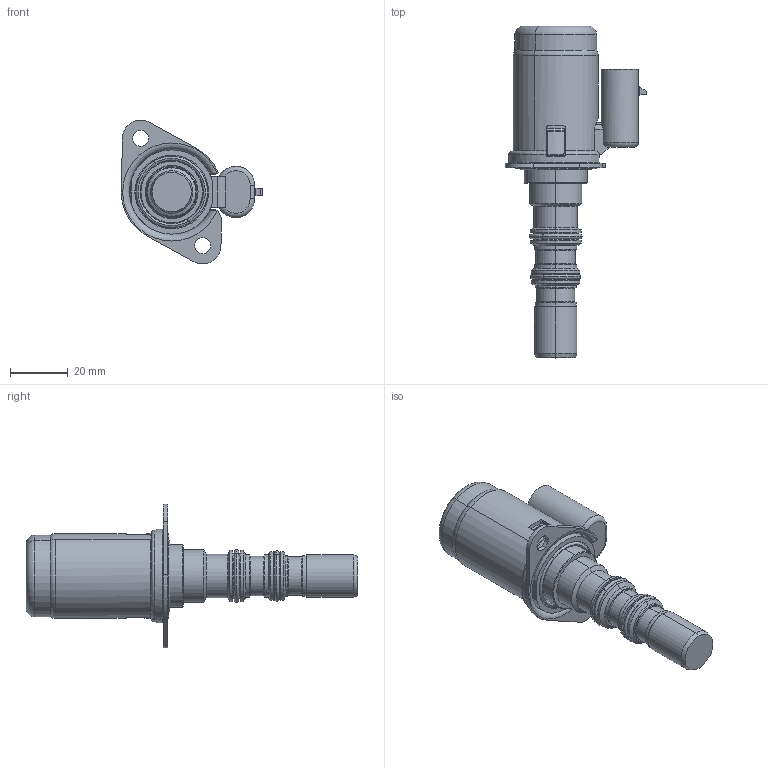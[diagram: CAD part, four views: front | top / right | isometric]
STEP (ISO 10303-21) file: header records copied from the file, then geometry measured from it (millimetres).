
FILE_DESCRIPTION((''),'2;1');
FILE_NAME('PRT0010','2009-03-20T',('jcs'),(''),'PRO/ENGINEER BY PARAMETRIC TECHNOLOGY CORPORATION, 2008010','PRO/ENGINEER BY PARAMETRIC TECHNOLOGY CORPORATION, 2008010','');
FILE_SCHEMA(('CONFIG_CONTROL_DESIGN'));
Length unit declared in the file: inch
Products named in the file (1): PRT0010
Bounding box: 49.14 x 115.24 x 49.94 mm (x, y, z)
Volume: 51251.2 mm3; surface area: 15135.8 mm2
Topology: 2 solids, 2 shells, 344 faces, 963 edges, 620 vertices
Faces by surface type: plane 121, cylinder 107, torus 68, cone 38, bspline 6, sphere 4
Entity records: 11881 total; most frequent: CARTESIAN_POINT 2912, ORIENTED_EDGE 1918, DIRECTION 1906, EDGE_CURVE 959, AXIS2_PLACEMENT_3D 767, VERTEX_POINT 620, CIRCLE 429, VECTOR 372
